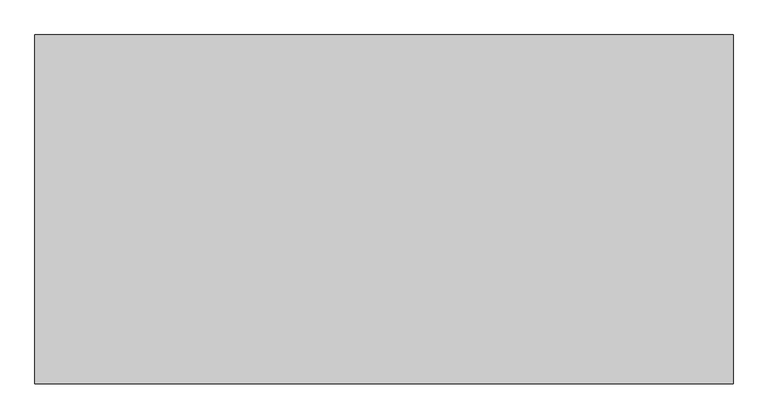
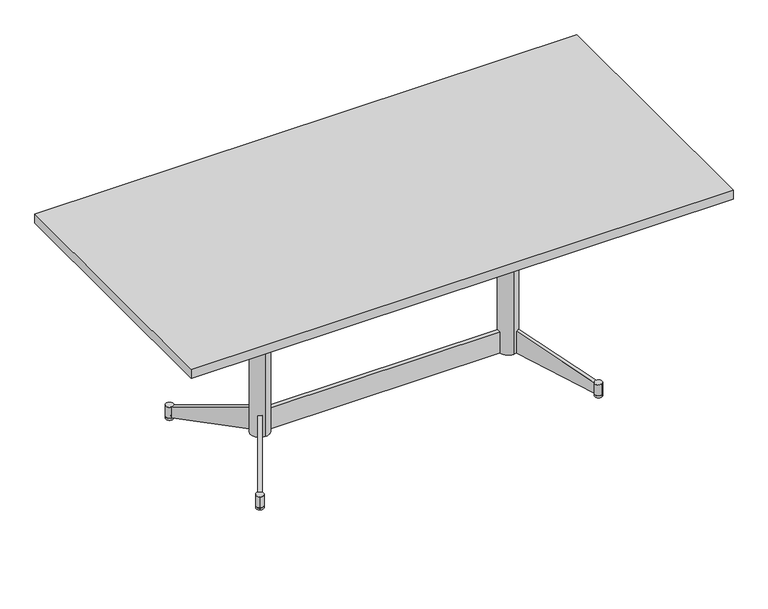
"""IFC4 building model written with IfcOpenShell, lengths in millimetres: furniture geometry, Geiger_MPTables_DeskRectangular : 36D 72W 28.75H with 1.25H Wood Top and 2 Bases."""

from ifc_helpers import new_model, si_unit, frame, origin, place, context, project, spatial, polyline, circle_curve, ellipse_curve, outline, extrude, source, transform, mapped, element, save
from ifc_brep_helpers import plane_surface, cylinder_surface, advanced_brep


def furniture_ccc33daa(model_context):
    return source(origin(), model_context, "Body", "SolidModel", [
        advanced_brep(
        [(577.8500015, -274.9630683, 46.4431999), (577.8500015, -274.9630683, 8.3431999), (571.4999982, -251.26454, 8.3431999), (571.4999982, -251.26454, 46.4431999), (560.5014756, -257.61454, 46.4431999), (560.5014756, -257.61454, 8.3431999), (559.6507266, -256.1409995, 46.4431999), (570.6492492, -249.7909995, 46.4431999), (565.1499985, -252.9660178, 0.0), (577.8500015, -274.9630683, 0.0), (571.5, -263.9645431, 0.0), (565.1499985, -252.9660178, 6.3500002), (577.8500015, -274.9630683, 6.3500002), (569.5156249, -260.5275046, 6.3500002), (573.4843751, -267.4015815, 6.3500002), (569.5156249, -260.5275046, 8.3431999), (573.4843751, -267.4015815, 8.3431999), (570.6492492, -249.7909995, 8.3431999), (559.6507266, -256.1409995, 8.3431999), (571.500007, 251.2645552, 46.4431999), (577.8499939, 274.9630552, 46.4431999), (560.5014844, 257.6145552, 46.4431999), (559.6507266, 256.1409995, 46.4431999), (570.6492492, 249.7909995, 46.4431999), (577.8499939, 274.9630552, 8.3431999), (571.500007, 251.2645552, 8.3431999), (560.5014844, 257.6145552, 8.3431999), (570.6492492, 249.7909995, 8.3431999), (559.6507266, 256.1409995, 8.3431999), (569.5156325, 260.5275178, 8.3431999), (573.4843675, 267.4015684, 8.3431999), (569.5156325, 260.5275178, 6.3500002), (573.4843675, 267.4015684, 6.3500002), (565.1500061, 252.9660309, 6.3500002), (577.8499939, 274.9630552, 6.3500002), (565.1500061, 252.9660309, 0.0), (577.8499939, 274.9630552, 0.0), (571.5, 263.9645431, 0.0), (419.1, 31.75, 692.15), (419.1, -31.75, 692.15), (419.1, 31.75, 59.097333), (419.1, -31.75, 59.097333), (429.1549986, 30.1157684, 137.3901348), (429.1549986, 30.1157684, 60.4127078), (440.1535212, 23.7657684, 60.4127078), (440.1535212, 23.7657684, 137.3901348), (429.1549986, -30.1157684, 60.4121627), (429.1549986, -30.1157684, 137.3939354), (440.1535212, -23.7657684, 137.3939354), (440.1535212, -23.7657684, 60.4121627)],
        [
            (0, 1),
            (1, 2, circle_curve(frame((571.5, -263.9645431, 8.3431999), z_axis=(0.0, 0.0, 1.0), x_axis=(0.5000000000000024, -0.8660254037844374, 0.0)), 12.700003)),
            (2, 3),
            (3, 0, circle_curve(frame((571.5, -263.9645431, 46.4431999), z_axis=(0.0, 0.0, -1.0), x_axis=(0.5000000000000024, -0.8660254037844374, 0.0)), 12.700003)),
            (0, 4, circle_curve(frame((571.5, -263.9645431, 46.4431999), z_axis=(0.0, 0.0, -1.0), x_axis=(0.5000000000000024, -0.8660254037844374, 0.0)), 12.700003)),
            (4, 5),
            (5, 1, circle_curve(frame((571.5, -263.9645431, 8.3431999), z_axis=(0.0, 0.0, 1.0), x_axis=(0.5000000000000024, -0.8660254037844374, 0.0)), 12.700003)),
            (6, 4),
            (3, 7),
            (7, 6),
            (8, 9, circle_curve(frame((571.5, -263.9645431, 0.0), z_axis=(0.0, 0.0, -1.0), x_axis=(0.5000000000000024, -0.8660254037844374, 0.0)), 12.700003)),
            (9, 10),
            (10, 8),
            (9, 8, circle_curve(frame((571.5, -263.9645431, 0.0), z_axis=(0.0, 0.0, -1.0), x_axis=(0.5000000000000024, -0.8660254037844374, 0.0)), 12.700003)),
            (8, 11),
            (11, 12, circle_curve(frame((571.5, -263.9645431, 6.3500002), z_axis=(0.0, 0.0, -1.0), x_axis=(0.5000000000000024, -0.8660254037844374, 0.0)), 12.700003)),
            (12, 9),
            (12, 11, circle_curve(frame((571.5, -263.9645431, 6.3500002), z_axis=(0.0, 0.0, -1.0), x_axis=(0.5000000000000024, -0.8660254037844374, 0.0)), 12.700003)),
            (11, 13),
            (13, 14, circle_curve(frame((571.5, -263.9645431, 6.3500002), z_axis=(0.0, 0.0, -1.0), x_axis=(0.5000000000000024, -0.8660254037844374, 0.0)), 3.9687501)),
            (14, 12),
            (14, 13, circle_curve(frame((571.5, -263.9645431, 6.3500002), z_axis=(0.0, 0.0, -1.0), x_axis=(0.5000000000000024, -0.8660254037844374, 0.0)), 3.9687501)),
            (13, 15),
            (15, 16, circle_curve(frame((571.5, -263.9645431, 8.3431999), z_axis=(0.0, 0.0, -1.0), x_axis=(0.5000000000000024, -0.8660254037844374, 0.0)), 3.9687501)),
            (16, 14),
            (16, 15, circle_curve(frame((571.5, -263.9645431, 8.3431999), z_axis=(0.0, 0.0, -1.0), x_axis=(0.5000000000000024, -0.8660254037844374, 0.0)), 3.9687501)),
            (17, 2),
            (5, 18),
            (18, 17),
            (19, 20, circle_curve(frame((571.5, 263.9645431, 46.4431999), z_axis=(0.0, 0.0, 1.0), x_axis=(0.500000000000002, 0.8660254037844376, 0.0)), 12.6999879)),
            (20, 21, circle_curve(frame((571.5, 263.9645431, 46.4431999), z_axis=(0.0, 0.0, 1.0), x_axis=(0.500000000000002, 0.8660254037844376, 0.0)), 12.6999879)),
            (21, 22),
            (22, 23),
            (23, 19),
            (24, 20),
            (19, 25),
            (25, 24, circle_curve(frame((571.5, 263.9645431, 8.3431999), z_axis=(0.0, 0.0, 1.0), x_axis=(0.500000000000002, 0.8660254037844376, 0.0)), 12.6999879)),
            (24, 26, circle_curve(frame((571.5, 263.9645431, 8.3431999), z_axis=(0.0, 0.0, 1.0), x_axis=(0.500000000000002, 0.8660254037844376, 0.0)), 12.6999879)),
            (26, 21),
            (25, 27),
            (27, 28),
            (28, 26),
            (29, 30, circle_curve(frame((571.5, 263.9645431, 8.3431999), z_axis=(0.0, 0.0, 1.0), x_axis=(0.500000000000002, 0.8660254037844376, 0.0)), 3.968735)),
            (30, 29, circle_curve(frame((571.5, 263.9645431, 8.3431999), z_axis=(0.0, 0.0, 1.0), x_axis=(0.500000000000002, 0.8660254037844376, 0.0)), 3.968735)),
            (31, 32, circle_curve(frame((571.5, 263.9645431, 6.3500002), z_axis=(0.0, 0.0, 1.0), x_axis=(0.500000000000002, 0.8660254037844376, 0.0)), 3.968735)),
            (32, 30),
            (29, 31),
            (32, 31, circle_curve(frame((571.5, 263.9645431, 6.3500002), z_axis=(0.0, 0.0, 1.0), x_axis=(0.500000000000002, 0.8660254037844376, 0.0)), 3.968735)),
            (31, 33),
            (33, 34, circle_curve(frame((571.5, 263.9645431, 6.3500002), z_axis=(0.0, 0.0, 1.0), x_axis=(0.500000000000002, 0.8660254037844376, 0.0)), 12.6999879)),
            (34, 32),
            (34, 33, circle_curve(frame((571.5, 263.9645431, 6.3500002), z_axis=(0.0, 0.0, 1.0), x_axis=(0.500000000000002, 0.8660254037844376, 0.0)), 12.6999879)),
            (33, 35),
            (35, 36, circle_curve(frame((571.5, 263.9645431, 0.0), z_axis=(0.0, 0.0, 1.0), x_axis=(0.500000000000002, 0.8660254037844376, 0.0)), 12.6999879)),
            (36, 34),
            (36, 35, circle_curve(frame((571.5, 263.9645431, 0.0), z_axis=(0.0, 0.0, 1.0), x_axis=(0.500000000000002, 0.8660254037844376, 0.0)), 12.6999879)),
            (35, 37),
            (37, 36),
            (38, 39, circle_curve(frame((419.1, 0.0, 692.15), z_axis=(0.0, 0.0, 1.0), x_axis=(0.0, -1.0, 0.0)), 31.75)),
            (39, 38, circle_curve(frame((419.1, 0.0, 692.15), z_axis=(0.0, 0.0, 1.0), x_axis=(0.0, -1.0, 0.0)), 31.75)),
            (40, 41, circle_curve(frame((419.1, 0.0, 59.097333), z_axis=(0.0, 0.0, -1.0), x_axis=(0.0, -1.0, 0.0)), 31.75)),
            (41, 40, circle_curve(frame((419.1, 0.0, 59.097333), z_axis=(0.0, 0.0, -1.0), x_axis=(0.0, -1.0, 0.0)), 31.75)),
            (38, 40),
            (41, 39),
            (42, 43),
            (43, 44, ellipse_curve(frame((419.1, 0.0, 66.6190616), z_axis=(-0.0978254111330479, -0.16943858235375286, -0.9806736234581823), x_axis=(-0.49033681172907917, -0.8492882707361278, 0.19565082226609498)), 32.3757051, 31.75)),
            (44, 45),
            (45, 42, ellipse_curve(frame((419.1, 0.0, 148.2304303), z_axis=(0.16453027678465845, 0.28497479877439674, 0.9443088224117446), x_axis=(-0.47215441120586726, -0.8177954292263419, 0.3290605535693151)), 33.6224752, 31.75)),
            (46, 47),
            (47, 48, ellipse_curve(frame((419.1, 0.0, 148.2346839), z_axis=(0.16453640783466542, -0.28498541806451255, 0.9443045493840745), x_axis=(-0.47215227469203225, 0.8177917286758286, 0.3290728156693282)), 33.6226274, 31.75)),
            (48, 49),
            (49, 46, ellipse_curve(frame((419.1, 0.0, 66.6184515), z_axis=(-0.09782442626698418, 0.16943687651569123, -0.9806740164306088), x_axis=(-0.4903370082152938, 0.8492886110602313, 0.1956488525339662)), 32.3756921, 31.75)),
            (28, 43),
            (42, 22),
            (23, 45),
            (44, 27),
            (6, 47),
            (46, 18),
            (17, 49),
            (48, 7),
        ],
        [
            cylinder_surface(frame((571.5, -263.9645431, -12.7), z_axis=(0.0, 0.0, 1.0), x_axis=(0.5000000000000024, -0.8660254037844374, 0.0)), 12.700003),
            plane_surface(frame((571.5, -263.9645431, 46.4431999), z_axis=(0.0, 0.0, 1.0000000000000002), x_axis=(0.5000000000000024, -0.8660254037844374, 0.0))),
            plane_surface(frame((571.5, -263.9645431, 0.0), z_axis=(0.0, 0.0, -1.0000000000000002), x_axis=(0.5000000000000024, -0.8660254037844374, 0.0))),
            plane_surface(frame((571.5, -263.9645431, 6.3500002), z_axis=(0.0, 0.0, 1.0000000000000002), x_axis=(0.5000000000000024, -0.8660254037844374, 0.0))),
            cylinder_surface(frame((571.5, -263.9645431, -12.7), z_axis=(0.0, 0.0, 1.0), x_axis=(0.5000000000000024, -0.8660254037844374, 0.0)), 3.9687501),
            plane_surface(frame((571.5, -263.9645431, 8.3431999), z_axis=(0.0, 0.0, -1.0000000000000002), x_axis=(0.5000000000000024, -0.8660254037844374, 0.0))),
            plane_surface(frame((571.5, 263.9645431, 46.4431999), z_axis=(0.0, 0.0, 1.0000000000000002), x_axis=(0.500000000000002, 0.8660254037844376, 0.0))),
            cylinder_surface(frame((571.5, 263.9645431, -8.15424), z_axis=(0.0, 0.0, -1.0), x_axis=(0.500000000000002, 0.8660254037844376, 0.0)), 12.6999879),
            plane_surface(frame((571.5, 263.9645431, 8.3431999), z_axis=(0.0, 0.0, -1.0000000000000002), x_axis=(0.500000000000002, 0.8660254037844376, 0.0))),
            cylinder_surface(frame((571.5, 263.9645431, -8.15424), z_axis=(0.0, 0.0, -1.0), x_axis=(0.500000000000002, 0.8660254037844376, 0.0)), 3.968735),
            plane_surface(frame((571.5, 263.9645431, 6.3500002), z_axis=(0.0, 0.0, 1.0000000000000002), x_axis=(0.500000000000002, 0.8660254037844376, 0.0))),
            plane_surface(frame((571.5, 263.9645431, 0.0), z_axis=(0.0, 0.0, -1.0000000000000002), x_axis=(0.500000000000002, 0.8660254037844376, 0.0))),
            plane_surface(frame((-419.1, -31.75, 692.15), z_axis=(0.0, 0.0, 1.0), x_axis=(1.0, 0.0, 0.0))),
            plane_surface(frame((-419.1, -31.75, 59.097333), z_axis=(0.0, 0.0, -1.0), x_axis=(-1.0, 0.0, 0.0))),
            cylinder_surface(frame((419.1, 0.0, 59.097333), z_axis=(0.0, 0.0, 1.0), x_axis=(0.0, -1.0, 0.0)), 31.75),
            plane_surface(frame((566.0007387, 267.1395431, 46.4431999), z_axis=(-0.8660254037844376, 0.500000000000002, 0.0), x_axis=(0.500000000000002, 0.8660254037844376, 0.0))),
            plane_surface(frame((576.9992613, 260.7895431, 46.4431999), z_axis=(0.8660254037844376, -0.500000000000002, 0.0), x_axis=(-0.500000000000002, -0.8660254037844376, 0.0))),
            plane_surface(frame((426.3007387, 25.1720453, 139.3793661), z_axis=(0.16453027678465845, 0.28497479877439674, 0.9443088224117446), x_axis=(0.8660254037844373, -0.5000000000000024, 0.0))),
            plane_surface(frame((559.6507266, 256.1409995, 8.3431999), z_axis=(-0.0978254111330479, -0.16943858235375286, -0.9806736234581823), x_axis=(0.8660254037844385, -0.5000000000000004, 0.0))),
            plane_surface(frame((426.3007387, -25.1720453, 61.5510379), z_axis=(-0.8660254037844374, -0.5000000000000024, 0.0), x_axis=(0.0, 0.0, -1.0))),
            plane_surface(frame((437.2992613, -18.8220453, 61.5510379), z_axis=(0.8660254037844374, 0.5000000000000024, 0.0), x_axis=(0.0, 0.0, 1.0))),
            plane_surface(frame((559.6507266, -256.1409995, 46.4431999), z_axis=(0.16453640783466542, -0.28498541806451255, 0.9443045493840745), x_axis=(0.8660254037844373, 0.5000000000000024, 0.0))),
            plane_surface(frame((426.3007387, -25.1720453, 61.5510379), z_axis=(-0.09782442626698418, 0.16943687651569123, -0.9806740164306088), x_axis=(0.8660254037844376, 0.5000000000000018, 0.0))),
        ],
        [
            (0, [[1, 2, 3, 4]]),
            (0, [[-1, 5, 6, 7]]),
            (1, [[8, -5, -4, 9, 10]]),
            (2, [[11, 12, 13]]),
            (2, [[-12, 14, -13]]),
            (0, [[-11, 15, 16, 17]]),
            (0, [[-14, -17, 18, -15]]),
            (3, [[-16, 19, 20, 21]]),
            (3, [[-18, -21, 22, -19]]),
            (4, [[-20, 23, 24, 25]]),
            (4, [[-22, -25, 26, -23]]),
            (5, [[27, -2, -7, 28, 29], [-24, -26]]),
            (6, [[30, 31, 32, 33, 34]]),
            (7, [[35, -30, 36, 37]]),
            (7, [[-35, 38, 39, -31]]),
            (8, [[-37, 40, 41, 42, -38], [43, 44]]),
            (9, [[45, 46, -43, 47]]),
            (9, [[-46, 48, -47, -44]]),
            (10, [[-45, 49, 50, 51]]),
            (10, [[-48, -51, 52, -49]]),
            (7, [[-50, 53, 54, 55]]),
            (7, [[-52, -55, 56, -53]]),
            (11, [[-54, 57, 58]]),
            (11, [[-56, -58, -57]]),
            (12, [[59, 60]]),
            (13, [[61, 62]]),
            (14, [[-59, 63, -62, 64]]),
            (14, [[-60, -64, -61, -63], [65, 66, 67, 68], [69, 70, 71, 72]]),
            (15, [[-32, -39, -42, 73, -65, 74]]),
            (16, [[-34, 75, -67, 76, -40, -36]]),
            (17, [[-74, -68, -75, -33]]),
            (18, [[-73, -41, -76, -66]]),
            (19, [[-28, -6, -8, 77, -69, 78]]),
            (20, [[-27, 79, -71, 80, -9, -3]]),
            (21, [[-10, -80, -70, -77]]),
            (22, [[-29, -78, -72, -79]]),
        ],
    ),
        advanced_brep(
        [(-419.1, 31.75, 692.15), (-419.1, -31.75, 692.15), (-419.1, 31.75, 59.097333), (-419.1, -31.75, 59.097333), (-429.1549986, -30.1157684, 137.3978713), (-429.1549986, -30.1157684, 60.4132998), (-440.1535212, -23.7657684, 60.4132998), (-440.1535212, -23.7657684, 137.3978713), (-429.1549986, 30.1157684, 60.413404), (-429.1549986, 30.1157684, 137.3941099), (-440.1535212, 23.7657684, 137.3941099), (-440.1535212, 23.7657684, 60.413404), (-559.6507266, -256.1409995, 46.4431999), (-560.5014844, -257.6145552, 46.4431999), (-560.5014844, -257.6145552, 8.3431999), (-559.6507266, -256.1409995, 8.3431999), (-570.6492492, -249.7909995, 8.3431999), (-571.500007, -251.2645552, 8.3431999), (-571.500007, -251.2645552, 46.4431999), (-570.6492492, -249.7909995, 46.4431999), (-577.8499939, -274.9630552, 46.4431999), (-577.8499939, -274.9630552, 8.3431999), (-569.5156325, -260.5275178, 8.3431999), (-573.4843675, -267.4015684, 8.3431999), (-569.5156325, -260.5275178, 6.3500002), (-573.4843675, -267.4015684, 6.3500002), (-565.1500061, -252.9660309, 6.3500002), (-577.8499939, -274.9630552, 6.3500002), (-565.1500061, -252.9660309, 0.0), (-577.8499939, -274.9630552, 0.0), (-571.5, -263.9645431, 0.0), (-559.6507266, 256.1409995, 46.4431999), (-559.6507266, 256.1409995, 8.3431999), (-560.5014844, 257.6145552, 8.3431999), (-560.5014844, 257.6145552, 46.4431999), (-570.6492492, 249.7909995, 8.3431999), (-570.6492492, 249.7909995, 46.4431999), (-571.500007, 251.2645552, 46.4431999), (-571.500007, 251.2645552, 8.3431999), (-577.8499939, 274.9630552, 8.3431999), (-569.5156325, 260.5275178, 8.3431999), (-573.4843675, 267.4015684, 8.3431999), (-577.8499939, 274.9630552, 46.4431999), (-565.1500061, 252.9660309, 0.0), (-577.8499939, 274.9630552, 0.0), (-571.5, 263.9645431, 0.0), (-565.1500061, 252.9660309, 6.3500002), (-577.8499939, 274.9630552, 6.3500002), (-569.5156325, 260.5275178, 6.3500002), (-573.4843675, 267.4015684, 6.3500002)],
        [
            (0, 1, circle_curve(frame((-419.1, 0.0, 692.15), z_axis=(0.0, 0.0, 1.0), x_axis=(0.0, -1.0, 0.0)), 31.75)),
            (1, 0, circle_curve(frame((-419.1, 0.0, 692.15), z_axis=(0.0, 0.0, 1.0), x_axis=(0.0, -1.0, 0.0)), 31.75)),
            (2, 3, circle_curve(frame((-419.1, 0.0, 59.097333), z_axis=(0.0, 0.0, -1.0), x_axis=(0.0, -1.0, 0.0)), 31.75)),
            (3, 2, circle_curve(frame((-419.1, 0.0, 59.097333), z_axis=(0.0, 0.0, -1.0), x_axis=(0.0, -1.0, 0.0)), 31.75)),
            (0, 2),
            (3, 1),
            (4, 5),
            (5, 6, ellipse_curve(frame((-419.1, 0.0, 66.6197242), z_axis=(0.09782648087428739, 0.1694404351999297, -0.9806731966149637), x_axis=(0.4903365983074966, 0.8492879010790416, 0.1956529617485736)), 32.3757192, 31.75)),
            (6, 7),
            (7, 4, ellipse_curve(frame((-419.1, 0.0, 148.239089), z_axis=(-0.16454275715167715, -0.2849964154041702, 0.9443001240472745), x_axis=(0.4721500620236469, 0.8177878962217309, 0.32908551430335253)), 33.622785, 31.75)),
            (8, 9),
            (9, 10, ellipse_curve(frame((-419.1, 0.0, 148.2348792), z_axis=(-0.16453668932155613, 0.2849859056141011, 0.9443043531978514), x_axis=(0.4721521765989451, -0.8177915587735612, 0.3290733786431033)), 33.6226344, 31.75)),
            (10, 11),
            (11, 8, ellipse_curve(frame((-419.1, 0.0, 66.6198407), z_axis=(0.0978266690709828, -0.16944076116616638, -0.9806731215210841), x_axis=(0.4903365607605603, -0.8492878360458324, 0.1956533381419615)), 32.3757216, 31.75)),
            (4, 12),
            (12, 13),
            (13, 14),
            (14, 15),
            (15, 5),
            (6, 16),
            (16, 17),
            (17, 18),
            (18, 19),
            (19, 7),
            (19, 12),
            (18, 20, circle_curve(frame((-571.5, -263.9645431, 46.4431999), z_axis=(0.0, 0.0, 1.0), x_axis=(-0.5000000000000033, -0.8660254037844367, 0.0)), 12.6999879)),
            (20, 13, circle_curve(frame((-571.5, -263.9645431, 46.4431999), z_axis=(0.0, 0.0, 1.0), x_axis=(-0.5000000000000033, -0.8660254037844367, 0.0)), 12.6999879)),
            (14, 21, circle_curve(frame((-571.5, -263.9645431, 8.3431999), z_axis=(0.0, 0.0, -1.0), x_axis=(-0.5000000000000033, -0.8660254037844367, 0.0)), 12.6999879)),
            (21, 17, circle_curve(frame((-571.5, -263.9645431, 8.3431999), z_axis=(0.0, 0.0, -1.0), x_axis=(-0.5000000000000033, -0.8660254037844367, 0.0)), 12.6999879)),
            (16, 15),
            (22, 23, circle_curve(frame((-571.5, -263.9645431, 8.3431999), z_axis=(0.0, 0.0, 1.0), x_axis=(-0.5000000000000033, -0.8660254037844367, 0.0)), 3.968735)),
            (23, 22, circle_curve(frame((-571.5, -263.9645431, 8.3431999), z_axis=(0.0, 0.0, 1.0), x_axis=(-0.5000000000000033, -0.8660254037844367, 0.0)), 3.968735)),
            (21, 20),
            (24, 25, circle_curve(frame((-571.5, -263.9645431, 6.3500002), z_axis=(0.0, 0.0, 1.0), x_axis=(-0.5000000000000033, -0.8660254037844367, 0.0)), 3.968735)),
            (25, 23),
            (22, 24),
            (25, 24, circle_curve(frame((-571.5, -263.9645431, 6.3500002), z_axis=(0.0, 0.0, 1.0), x_axis=(-0.5000000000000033, -0.8660254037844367, 0.0)), 3.968735)),
            (24, 26),
            (26, 27, circle_curve(frame((-571.5, -263.9645431, 6.3500002), z_axis=(0.0, 0.0, 1.0), x_axis=(-0.5000000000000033, -0.8660254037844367, 0.0)), 12.6999879)),
            (27, 25),
            (27, 26, circle_curve(frame((-571.5, -263.9645431, 6.3500002), z_axis=(0.0, 0.0, 1.0), x_axis=(-0.5000000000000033, -0.8660254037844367, 0.0)), 12.6999879)),
            (26, 28),
            (28, 29, circle_curve(frame((-571.5, -263.9645431, 0.0), z_axis=(0.0, 0.0, 1.0), x_axis=(-0.5000000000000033, -0.8660254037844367, 0.0)), 12.6999879)),
            (29, 27),
            (29, 28, circle_curve(frame((-571.5, -263.9645431, 0.0), z_axis=(0.0, 0.0, 1.0), x_axis=(-0.5000000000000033, -0.8660254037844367, 0.0)), 12.6999879)),
            (28, 30),
            (30, 29),
            (31, 9),
            (8, 32),
            (32, 33),
            (33, 34),
            (34, 31),
            (35, 11),
            (10, 36),
            (36, 37),
            (37, 38),
            (38, 35),
            (31, 36),
            (35, 32),
            (38, 39, circle_curve(frame((-571.5, 263.9645431, 8.3431999), z_axis=(0.0, 0.0, -1.0), x_axis=(-0.5000000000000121, 0.8660254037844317, 0.0)), 12.6999879)),
            (39, 33, circle_curve(frame((-571.5, 263.9645431, 8.3431999), z_axis=(0.0, 0.0, -1.0), x_axis=(-0.5000000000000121, 0.8660254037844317, 0.0)), 12.6999879)),
            (40, 41, circle_curve(frame((-571.5, 263.9645431, 8.3431999), z_axis=(0.0, 0.0, 1.0), x_axis=(-0.5000000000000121, 0.8660254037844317, 0.0)), 3.968735)),
            (41, 40, circle_curve(frame((-571.5, 263.9645431, 8.3431999), z_axis=(0.0, 0.0, 1.0), x_axis=(-0.5000000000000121, 0.8660254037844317, 0.0)), 3.968735)),
            (34, 42, circle_curve(frame((-571.5, 263.9645431, 46.4431999), z_axis=(0.0, 0.0, 1.0), x_axis=(-0.5000000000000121, 0.8660254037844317, 0.0)), 12.6999879)),
            (42, 37, circle_curve(frame((-571.5, 263.9645431, 46.4431999), z_axis=(0.0, 0.0, 1.0), x_axis=(-0.5000000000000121, 0.8660254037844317, 0.0)), 12.6999879)),
            (42, 39),
            (43, 44, circle_curve(frame((-571.5, 263.9645431, 0.0), z_axis=(0.0, 0.0, -1.0), x_axis=(-0.5000000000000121, 0.8660254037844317, 0.0)), 12.6999879)),
            (44, 45),
            (45, 43),
            (44, 43, circle_curve(frame((-571.5, 263.9645431, 0.0), z_axis=(0.0, 0.0, -1.0), x_axis=(-0.5000000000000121, 0.8660254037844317, 0.0)), 12.6999879)),
            (43, 46),
            (46, 47, circle_curve(frame((-571.5, 263.9645431, 6.3500002), z_axis=(0.0, 0.0, -1.0), x_axis=(-0.5000000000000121, 0.8660254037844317, 0.0)), 12.6999879)),
            (47, 44),
            (47, 46, circle_curve(frame((-571.5, 263.9645431, 6.3500002), z_axis=(0.0, 0.0, -1.0), x_axis=(-0.5000000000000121, 0.8660254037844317, 0.0)), 12.6999879)),
            (46, 48),
            (48, 49, circle_curve(frame((-571.5, 263.9645431, 6.3500002), z_axis=(0.0, 0.0, -1.0), x_axis=(-0.5000000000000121, 0.8660254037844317, 0.0)), 3.968735)),
            (49, 47),
            (49, 48, circle_curve(frame((-571.5, 263.9645431, 6.3500002), z_axis=(0.0, 0.0, -1.0), x_axis=(-0.5000000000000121, 0.8660254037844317, 0.0)), 3.968735)),
            (48, 40),
            (41, 49),
        ],
        [
            plane_surface(frame((-419.1, -31.75, 692.15), z_axis=(0.0, 0.0, 1.0), x_axis=(1.0, 0.0, 0.0))),
            plane_surface(frame((-419.1, -31.75, 59.097333), z_axis=(0.0, 0.0, -1.0), x_axis=(-1.0, 0.0, 0.0))),
            cylinder_surface(frame((-419.1, 0.0, 59.097333), z_axis=(0.0, 0.0, 1.0), x_axis=(0.0, -1.0, 0.0)), 31.75),
            plane_surface(frame((-559.6507266, -256.1409995, 46.4431999), z_axis=(0.8660254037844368, -0.5000000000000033, 0.0), x_axis=(-0.47215006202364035, -0.8177878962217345, -0.3290855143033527))),
            plane_surface(frame((-570.6492492, -249.7909995, 46.4431999), z_axis=(-0.8660254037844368, 0.5000000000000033, 0.0), x_axis=(0.47215006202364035, 0.8177878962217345, 0.3290855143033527))),
            plane_surface(frame((-426.3007387, -25.1720453, 139.3872718), z_axis=(-0.16454275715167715, -0.2849964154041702, 0.9443001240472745), x_axis=(-0.8660254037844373, 0.5000000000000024, 0.0))),
            plane_surface(frame((-559.6507266, -256.1409995, 46.4431999), z_axis=(0.0, 0.0, 1.0), x_axis=(-0.8660254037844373, 0.5000000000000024, 0.0))),
            plane_surface(frame((-566.0007387, -267.1395431, 8.3431999), z_axis=(0.0, 0.0, -1.0), x_axis=(-0.8660254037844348, 0.5000000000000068, 0.0))),
            plane_surface(frame((-559.6507266, -256.1409995, 8.3431999), z_axis=(0.09782648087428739, 0.1694404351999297, -0.9806731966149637), x_axis=(-0.8660254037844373, 0.5000000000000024, 0.0))),
            cylinder_surface(frame((-571.5, -263.9645431, -12.7), z_axis=(0.0, 0.0, -1.0), x_axis=(-0.5000000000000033, -0.8660254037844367, 0.0)), 12.6999879),
            cylinder_surface(frame((-571.5, -263.9645431, -12.7), z_axis=(0.0, 0.0, -1.0), x_axis=(-0.5000000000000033, -0.8660254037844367, 0.0)), 3.968735),
            plane_surface(frame((-571.5, -263.9645431, 6.3500002), z_axis=(0.0, 0.0, 1.0), x_axis=(-0.5000000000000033, -0.8660254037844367, 0.0))),
            plane_surface(frame((-571.5, -263.9645431, 0.0), z_axis=(0.0, 0.0, -1.0), x_axis=(-0.5000000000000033, -0.8660254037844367, 0.0))),
            plane_surface(frame((-426.3007387, 25.1720453, 139.3834281), z_axis=(0.8660254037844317, 0.500000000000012, 0.0), x_axis=(0.47215217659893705, -0.8177915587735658, 0.3290733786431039))),
            plane_surface(frame((-437.2992613, 18.8220453, 139.3834281), z_axis=(-0.8660254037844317, -0.500000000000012, 0.0), x_axis=(-0.47215217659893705, 0.8177915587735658, -0.3290733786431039))),
            plane_surface(frame((-559.6507266, 256.1409995, 46.4431999), z_axis=(-0.16453668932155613, 0.2849859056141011, 0.9443043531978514), x_axis=(-0.8660254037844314, -0.5000000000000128, 0.0))),
            plane_surface(frame((-426.3007387, 25.1720453, 61.5523063), z_axis=(0.09782666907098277, -0.16944076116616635, -0.9806731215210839), x_axis=(-0.8660254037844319, -0.5000000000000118, 0.0))),
            plane_surface(frame((-559.6507266, 256.1409995, 8.3431999), z_axis=(0.0, 0.0, -1.0000000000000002), x_axis=(-0.8660254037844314, -0.5000000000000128, 0.0))),
            plane_surface(frame((-566.0007387, 267.1395431, 46.4431999), z_axis=(0.0, 0.0, 1.0000000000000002), x_axis=(-0.8660254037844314, -0.5000000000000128, 0.0))),
            cylinder_surface(frame((-571.5, 263.9645431, -24.6636028), z_axis=(0.0, 0.0, 1.0), x_axis=(-0.5000000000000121, 0.8660254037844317, 0.0)), 12.6999879),
            plane_surface(frame((-571.5, 263.9645431, 0.0), z_axis=(0.0, 0.0, -1.0), x_axis=(-0.5000000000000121, 0.8660254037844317, 0.0))),
            plane_surface(frame((-571.5, 263.9645431, 6.3500002), z_axis=(0.0, 0.0, 1.0), x_axis=(-0.5000000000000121, 0.8660254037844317, 0.0))),
            cylinder_surface(frame((-571.5, 263.9645431, -24.6636028), z_axis=(0.0, 0.0, 1.0), x_axis=(-0.5000000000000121, 0.8660254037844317, 0.0)), 3.968735),
        ],
        [
            (0, [[1, 2]]),
            (1, [[3, 4]]),
            (2, [[-1, 5, -4, 6], [7, 8, 9, 10], [11, 12, 13, 14]]),
            (2, [[-2, -6, -3, -5]]),
            (3, [[15, 16, 17, 18, 19, -7]]),
            (4, [[20, 21, 22, 23, 24, -9]]),
            (5, [[-15, -10, -24, 25]]),
            (6, [[-16, -25, -23, 26, 27]]),
            (7, [[-18, 28, 29, -21, 30], [31, 32]]),
            (8, [[-19, -30, -20, -8]]),
            (9, [[33, -26, -22, -29]]),
            (9, [[-33, -28, -17, -27]]),
            (10, [[34, 35, -31, 36]]),
            (10, [[-35, 37, -36, -32]]),
            (11, [[-34, 38, 39, 40]]),
            (11, [[-37, -40, 41, -38]]),
            (9, [[-39, 42, 43, 44]]),
            (9, [[-41, -44, 45, -42]]),
            (12, [[-43, 46, 47]]),
            (12, [[-45, -47, -46]]),
            (13, [[48, -11, 49, 50, 51, 52]]),
            (14, [[53, -13, 54, 55, 56, 57]]),
            (15, [[-48, 58, -54, -12]]),
            (16, [[-49, -14, -53, 59]]),
            (17, [[-50, -59, -57, 60, 61], [62, 63]]),
            (18, [[-52, 64, 65, -55, -58]]),
            (19, [[66, -60, -56, -65]]),
            (19, [[-66, -64, -51, -61]]),
            (20, [[67, 68, 69]]),
            (20, [[-68, 70, -69]]),
            (19, [[-67, 71, 72, 73]]),
            (19, [[-70, -73, 74, -71]]),
            (21, [[-72, 75, 76, 77]]),
            (21, [[-74, -77, 78, -75]]),
            (22, [[-76, 79, -63, 80]]),
            (22, [[-78, -80, -62, -79]]),
        ],
    ),
        extrude(outline(polyline([(304.8, 114.3), (533.4, 114.3), (533.4, -114.3), (304.8, -114.3), (304.8, 114.3)])), frame((0.0, 0.0, 692.15), z_axis=(0.0, 0.0, 1.0), x_axis=(1.0, 0.0, 0.0)), (0.0, 0.0, 1.0), 6.35),
        extrude(outline(polyline([(-304.8, 114.3), (-304.8, -114.3), (-533.4, -114.3), (-533.4, 114.3), (-304.8, 114.3)])), frame((0.0, 0.0, 692.15), z_axis=(0.0, 0.0, 1.0), x_axis=(1.0, 0.0, 0.0)), (0.0, 0.0, 1.0), 6.35),
        extrude(outline(polyline([(-914.4, 457.2), (914.4, 457.2), (914.4, -457.2), (-914.4, -457.2), (-914.4, 457.2)])), frame((0.0, 0.0, 698.5), z_axis=(0.0, 0.0, 1.0), x_axis=(1.0, 0.0, 0.0)), (0.0, 0.0, 1.0), 31.75),
        extrude(outline(polyline([(387.35, -6.35), (-387.35, -6.35), (-387.35, 6.35), (387.35, 6.35), (387.35, -6.35)])), frame((0.0, 0.0, 59.097333), z_axis=(0.0, 0.0, 1.0), x_axis=(1.0, 0.0, 0.0)), (0.0, 0.0, 1.0), 76.2000045),
    ])


if __name__ == "__main__":
    model = new_model("IFC4")
    model_context = context("Model", 3, world=origin())
    ifc_project = project(units=[si_unit("LENGTHUNIT", "METRE", prefix="MILLI")], contexts=[model_context])
    site = spatial("IfcSite", under=ifc_project)
    building = spatial("IfcBuilding", under=site)
    placement = place(None, origin())
    furniture_shape = furniture_ccc33daa(model_context)
    element("IfcFurniture", 1, ObjectType="Geiger_MPTables_DeskRectangular : 36D 72W 28.75H with 1.25H Wood Top and 2 Bases", at=placement, inside=building, context=model_context, shape_type="MappedRepresentation", body=[
        mapped(furniture_shape, transform((0.0, 0.0, 0.0), x_axis=(1.0, 0.0, 0.0), y_axis=(0.0, 1.0, 0.0), z_axis=(0.0, 0.0, 1.0))),
    ])
    save(model, "model.ifc")
